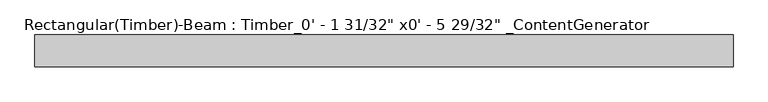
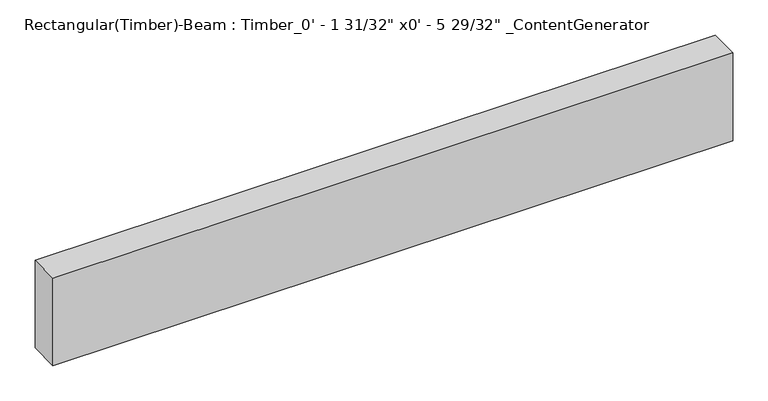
"""IFC4 building model written with IfcOpenShell, lengths in millimetres: beam geometry."""

from ifc_helpers import new_model, si_unit, frame, origin, place, context, project, spatial, polyline, outline, extrude, source, transform, mapped, element, save


def beam_e0318960(model_context):
    return source(origin(), model_context, "Body", "SweptSolid", [
        extrude(outline(polyline([(558.78, 25.4), (558.78, -25.4), (-558.78, -25.4), (-558.78, 25.4), (558.78, 25.4)])), frame((0.0, 0.0, -76.2), z_axis=(0.0, 0.0, 1.0), x_axis=(1.0, 0.0, 0.0)), (0.0, 0.0, 1.0), 152.4),
    ])


if __name__ == "__main__":
    model = new_model("IFC4")
    model_context = context("Model", 3, world=origin())
    ifc_project = project(units=[si_unit("LENGTHUNIT", "METRE", prefix="MILLI")], contexts=[model_context])
    site = spatial("IfcSite", under=ifc_project)
    building = spatial("IfcBuilding", under=site)
    placement = place(None, origin())
    beam_shape = beam_e0318960(model_context)
    element("IfcBeam", 1, ObjectType="Rectangular(Timber)-Beam : Timber_0' - 1 31/32\" x0' - 5 29/32\" _ContentGenerator", at=placement, inside=building, context=model_context, shape_type="MappedRepresentation", body=[
        mapped(beam_shape, transform((0.0, 0.0, 0.0), x_axis=(1.0, 0.0, 0.0), y_axis=(0.0, 1.0, 0.0), z_axis=(0.0, 0.0, 1.0))),
    ])
    save(model, "model.ifc")
